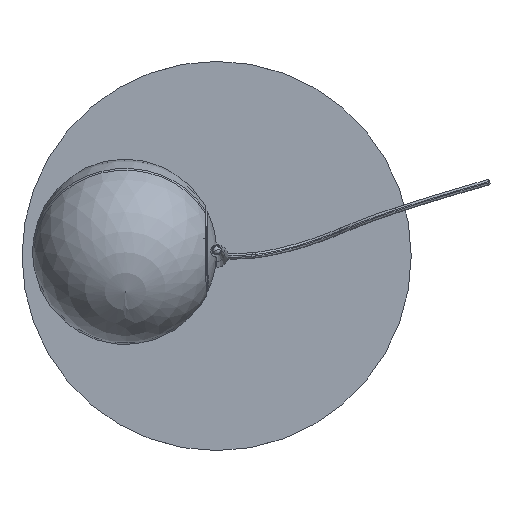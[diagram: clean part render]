
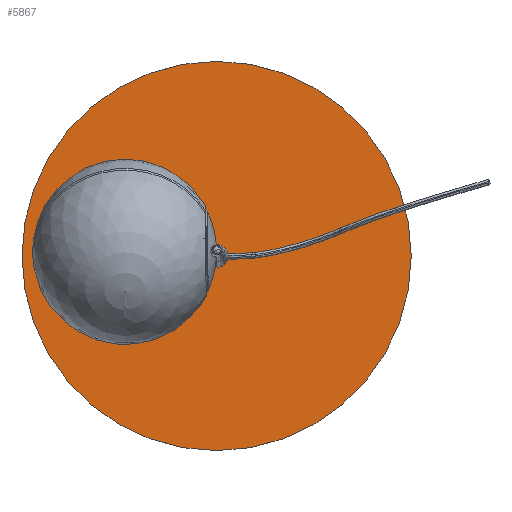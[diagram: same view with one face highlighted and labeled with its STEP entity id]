
A CAD part, top view. The second image highlights one B-rep face of the part: STEP entity #5867.
In plain terms, the highlighted planar face has unit normal (0, 0, 1).
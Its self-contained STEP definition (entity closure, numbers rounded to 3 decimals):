
#38 = CIRCLE ( 'NONE', #4059, 210. ) ;
#119 = CARTESIAN_POINT ( 'NONE',  ( 0., 0., 3. ) ) ;
#334 = CARTESIAN_POINT ( 'NONE',  ( 210., 0., 3. ) ) ;
#584 = ORIENTED_EDGE ( 'NONE', *, *, #1102, .F. ) ;
#598 = DIRECTION ( 'NONE',  ( 0., 0., 1. ) ) ;
#1102 = EDGE_CURVE ( 'NONE', #2947, #6519, #2313, .T. ) ;
#1193 = EDGE_CURVE ( 'NONE', #6519, #2947, #3120, .T. ) ;
#1320 = DIRECTION ( 'NONE',  ( 1., 0., 0. ) ) ;
#1848 = EDGE_LOOP ( 'NONE', ( #6991, #2194 ) ) ;
#1993 = FACE_BOUND ( 'NONE', #3404, .T. ) ;
#2194 = ORIENTED_EDGE ( 'NONE', *, *, #2879, .T. ) ;
#2257 = DIRECTION ( 'NONE',  ( 1., 0., 0. ) ) ;
#2272 = DIRECTION ( 'NONE',  ( 1., 0., 0. ) ) ;
#2305 = DIRECTION ( 'NONE',  ( 0., 0., 1. ) ) ;
#2313 = CIRCLE ( 'NONE', #6137, 6.3 ) ;
#2455 = CARTESIAN_POINT ( 'NONE',  ( 0., 0., 3. ) ) ;
#2553 = CIRCLE ( 'NONE', #6611, 210. ) ;
#2801 = AXIS2_PLACEMENT_3D ( 'NONE', #2455, #6877, #3582 ) ;
#2879 = EDGE_CURVE ( 'NONE', #5776, #5128, #38, .T. ) ;
#2894 = CARTESIAN_POINT ( 'NONE',  ( 6.3, 0., 3. ) ) ;
#2947 = VERTEX_POINT ( 'NONE', #5839 ) ;
#3120 = CIRCLE ( 'NONE', #4856, 6.3 ) ;
#3282 = DIRECTION ( 'NONE',  ( 0., 0., 1. ) ) ;
#3404 = EDGE_LOOP ( 'NONE', ( #3941, #584 ) ) ;
#3582 = DIRECTION ( 'NONE',  ( 1., 0., 0. ) ) ;
#3941 = ORIENTED_EDGE ( 'NONE', *, *, #1193, .F. ) ;
#3974 = EDGE_CURVE ( 'NONE', #5128, #5776, #2553, .T. ) ;
#4059 = AXIS2_PLACEMENT_3D ( 'NONE', #6134, #598, #5043 ) ;
#4435 = CARTESIAN_POINT ( 'NONE',  ( -210., 0., 3. ) ) ;
#4856 = AXIS2_PLACEMENT_3D ( 'NONE', #119, #2305, #1320 ) ;
#5023 = CARTESIAN_POINT ( 'NONE',  ( 0., 0., 3. ) ) ;
#5043 = DIRECTION ( 'NONE',  ( 1., 0., 0. ) ) ;
#5128 = VERTEX_POINT ( 'NONE', #4435 ) ;
#5145 = PLANE ( 'NONE',  #2801 ) ;
#5212 = FACE_OUTER_BOUND ( 'NONE', #1848, .T. ) ;
#5631 = CARTESIAN_POINT ( 'NONE',  ( 0., 0., 3. ) ) ;
#5776 = VERTEX_POINT ( 'NONE', #334 ) ;
#5839 = CARTESIAN_POINT ( 'NONE',  ( -6.3, 0., 3. ) ) ;
#5867 = ADVANCED_FACE ( 'NONE', ( #1993, #5212 ), #5145, .T. ) ;
#6100 = DIRECTION ( 'NONE',  ( 0., 0., 1. ) ) ;
#6134 = CARTESIAN_POINT ( 'NONE',  ( 0., 0., 3. ) ) ;
#6137 = AXIS2_PLACEMENT_3D ( 'NONE', #5023, #3282, #2272 ) ;
#6519 = VERTEX_POINT ( 'NONE', #2894 ) ;
#6611 = AXIS2_PLACEMENT_3D ( 'NONE', #5631, #6100, #2257 ) ;
#6877 = DIRECTION ( 'NONE',  ( 0., 0., 1. ) ) ;
#6991 = ORIENTED_EDGE ( 'NONE', *, *, #3974, .T. ) ;
